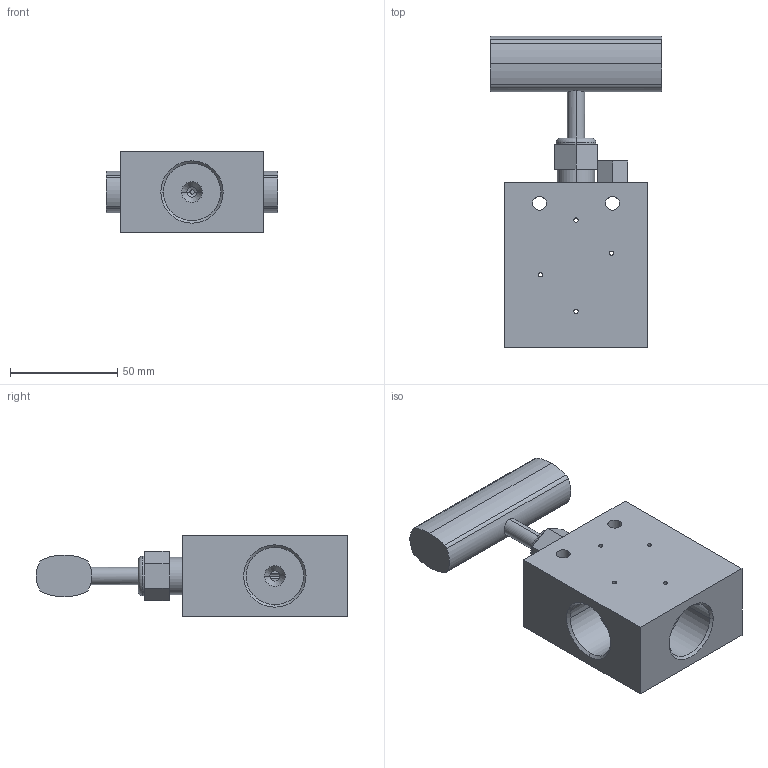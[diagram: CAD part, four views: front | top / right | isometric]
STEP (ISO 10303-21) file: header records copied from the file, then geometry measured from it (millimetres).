
FILE_DESCRIPTION (( 'STEP AP203' ), '1' );
FILE_NAME ('NV60VS09-T-00-00.STEP', '2023-02-22T02:05:33', ( 'USER' ), ( '' ), 'SwSTEP 2.0', 'SolidWorks 2020', '' );
FILE_SCHEMA (( 'CONFIG_CONTROL_DESIGN' ));
Length unit declared in the file: millimetre
Products named in the file (1): NV60VS09-T-00-00
Bounding box: 80 x 145.16 x 38 mm (x, y, z)
Volume: 203241.8 mm3; surface area: 37769.3 mm2
Topology: 1 solids, 1 shells, 104 faces, 261 edges, 164 vertices
Faces by surface type: cylinder 53, plane 31, cone 18, torus 2
Entity records: 3664 total; most frequent: CARTESIAN_POINT 1006, DIRECTION 551, ORIENTED_EDGE 522, EDGE_CURVE 261, AXIS2_PLACEMENT_3D 211, VERTEX_POINT 164, EDGE_LOOP 135, VECTOR 129
